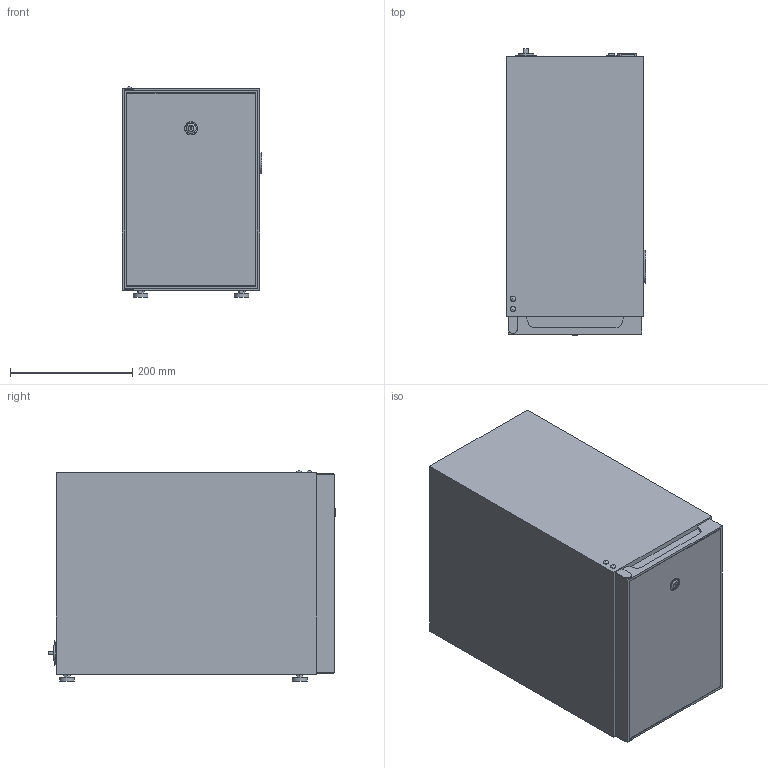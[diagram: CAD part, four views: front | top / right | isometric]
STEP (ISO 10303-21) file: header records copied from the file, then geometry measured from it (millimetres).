
FILE_DESCRIPTION(/* description */ (''),/* implementation_level */ '2;1');
FILE_NAME(/* name */ 'D:\Projekte\WMF\am\kuehler\03_9190_0001\3D\03_9190_0001_3D.stp',/* time_stamp */ '2016-01-31T08:41:12+01:00',/* author */ ('AM'),/* organization */ (''),/* preprocessor_version */ 'ST-DEVELOPER v15.2',/* originating_system */ 'Autodesk Inventor 2014',/* authorisation */ '');
FILE_SCHEMA (('AUTOMOTIVE_DESIGN { 1 0 10303 214 3 1 1 }'));
Length unit declared in the file: millimetre
Products named in the file (1): 03_9190_0001_3D
Bounding box: 228 x 469 x 344 mm (x, y, z)
Volume: 33593610.5 mm3; surface area: 667503.2 mm2
Topology: 1 solids, 1 shells, 173 faces, 419 edges, 274 vertices
Faces by surface type: plane 135, cylinder 34, sphere 2, cone 1, torus 1
Full cylindrical faces by diameter (mm): 8 x2, 8.8 x2, 24 x4, 25 x1, 35 x1
Entity records: 4919 total; most frequent: CARTESIAN_POINT 845, DIRECTION 817, ORIENTED_EDGE 802, EDGE_CURVE 401, LINE 333, VECTOR 333, VERTEX_POINT 270, AXIS2_PLACEMENT_3D 242
